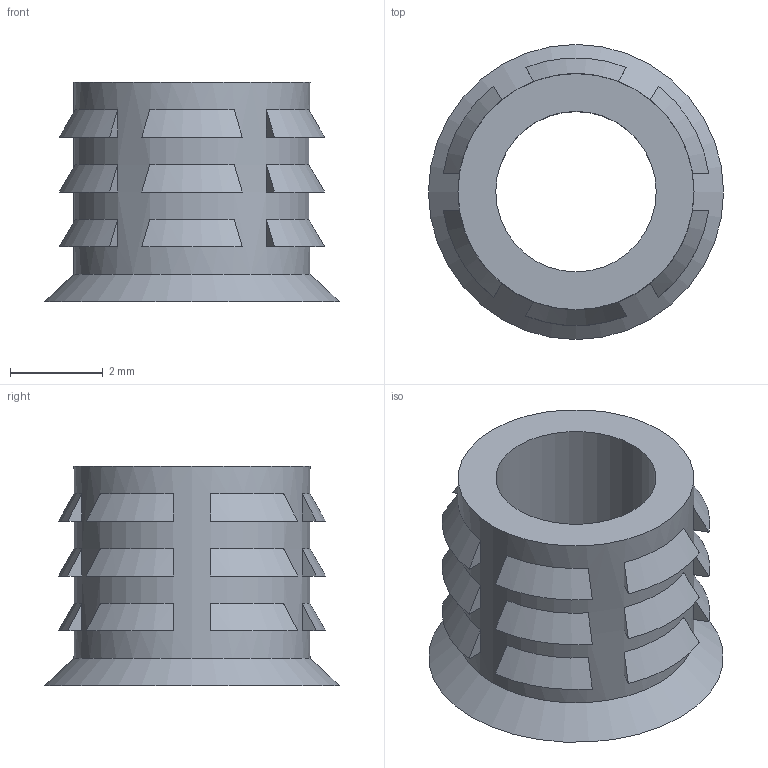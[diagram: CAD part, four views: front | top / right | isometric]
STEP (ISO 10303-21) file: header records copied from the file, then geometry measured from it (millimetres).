
FILE_DESCRIPTION (( 'STEP AP214' ), '1' );
FILE_NAME ('insert 8-32 S1.STEP', '2017-08-09T08:50:55', ( '微软用户' ), ( '微软中国' ), 'SwSTEP 2.0', 'SolidWorks 2015', '' );
FILE_SCHEMA (( 'AUTOMOTIVE_DESIGN' ));
Length unit declared in the file: millimetre
Products named in the file (1): insert 8-32 S1
Bounding box: 6.35 x 6.35 x 4.72 mm (x, y, z)
Volume: 57.9 mm3; surface area: 185.8 mm2
Topology: 1 solids, 1 shells, 78 faces, 172 edges, 114 vertices
Faces by surface type: plane 56, torus 19, cylinder 2, cone 1
Full cylindrical faces by diameter (mm): 3.454 x1, 5.08 x1
Entity records: 2238 total; most frequent: CARTESIAN_POINT 493, DIRECTION 350, ORIENTED_EDGE 336, EDGE_CURVE 168, AXIS2_PLACEMENT_3D 139, VERTEX_POINT 114, EDGE_LOOP 102, FACE_OUTER_BOUND 81
